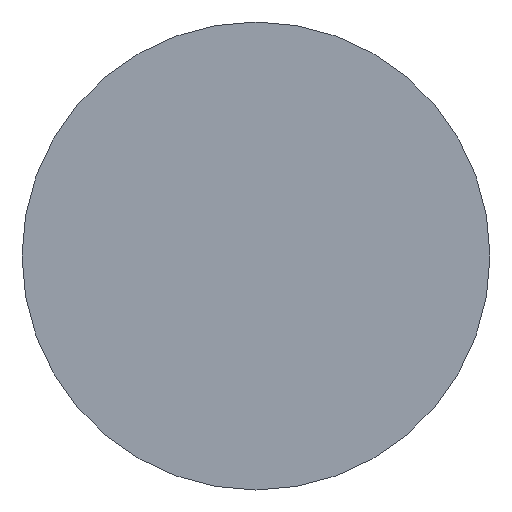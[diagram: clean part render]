
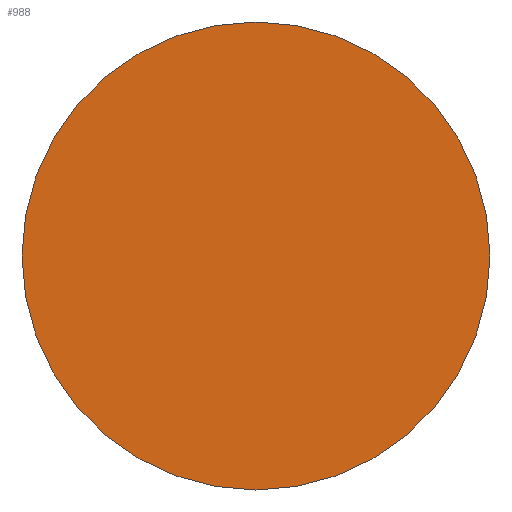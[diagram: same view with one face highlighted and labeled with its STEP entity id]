
A CAD part, left-side view. The second image highlights one B-rep face of the part: STEP entity #988.
In plain terms, the highlighted planar face has unit normal (-1, 0, 0).
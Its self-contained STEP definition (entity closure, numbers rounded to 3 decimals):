
#941=CARTESIAN_POINT('',(-448.277,-549.609,-6.441));
#942=VERTEX_POINT('',#941);
#949=CARTESIAN_POINT('',(-448.277,-426.609,-6.441));
#950=VERTEX_POINT('',#949);
#951=CARTESIAN_POINT('',(-448.277,-488.109,-6.441));
#952=DIRECTION('',(-1.0,0.0,0.0));
#953=DIRECTION('',(0.0,-1.0,0.0));
#954=AXIS2_PLACEMENT_3D('',#951,#952,#953);
#955=CIRCLE('',#954,61.5);
#956=EDGE_CURVE('',#950,#942,#955,.T.);
#958=CARTESIAN_POINT('',(-448.277,-488.109,-6.441));
#959=DIRECTION('',(-1.0,0.0,0.0));
#960=DIRECTION('',(0.0,-1.0,0.0));
#961=AXIS2_PLACEMENT_3D('',#958,#959,#960);
#962=CIRCLE('',#961,61.5);
#963=EDGE_CURVE('',#942,#950,#962,.T.);
#979=CARTESIAN_POINT('',(-448.277,-414.309,-80.241));
#980=DIRECTION('',(-1.0,0.0,0.0));
#981=DIRECTION('',(0.0,-1.0,0.0));
#982=AXIS2_PLACEMENT_3D('',#979,#980,#981);
#983=PLANE('',#982);
#984=ORIENTED_EDGE('',*,*,#963,.T.);
#985=ORIENTED_EDGE('',*,*,#956,.T.);
#986=EDGE_LOOP('',(#984,#985));
#987=FACE_OUTER_BOUND('',#986,.T.);
#988=ADVANCED_FACE('',(#987),#983,.T.);
